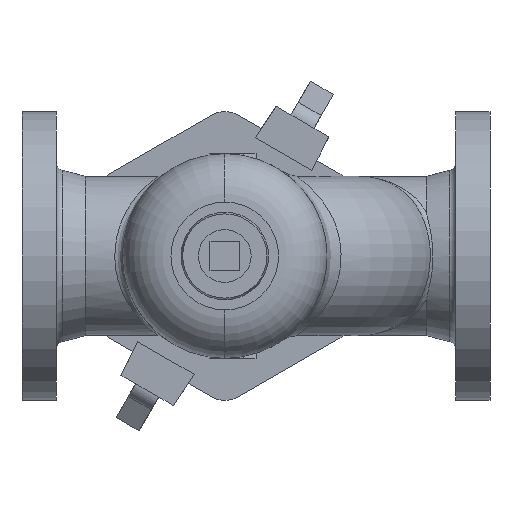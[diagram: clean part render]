
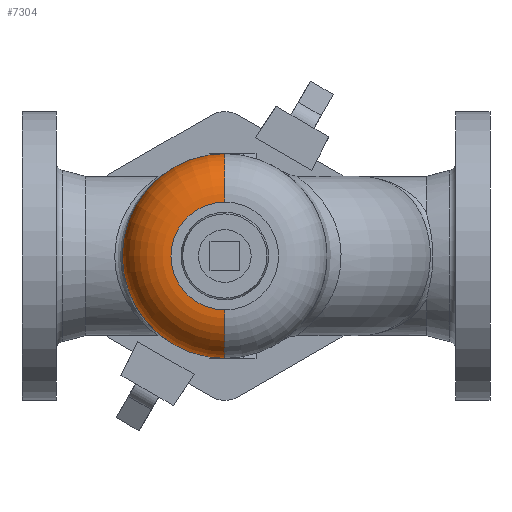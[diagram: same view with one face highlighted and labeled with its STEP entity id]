
A CAD part, front view. The second image highlights one B-rep face of the part: STEP entity #7304.
In plain terms, the highlighted toroidal (fillet/blend) face has major radius 34.5 mm and minor radius 31 mm.
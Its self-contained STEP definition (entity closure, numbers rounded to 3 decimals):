
#85 = DIRECTION ( 'NONE',  ( 0., 1., 0. ) ) ;
#591 = DIRECTION ( 'NONE',  ( 1., 0., 0. ) ) ;
#612 = AXIS2_PLACEMENT_3D ( 'NONE', #3937, #85, #8285 ) ;
#1080 = DIRECTION ( 'NONE',  ( -1., 0., 0. ) ) ;
#1155 = DIRECTION ( 'NONE',  ( 0., 0., 1. ) ) ;
#1327 = CARTESIAN_POINT ( 'NONE',  ( 0., -162.5, -34.5 ) ) ;
#1544 = CIRCLE ( 'NONE', #4985, 31. ) ;
#2038 = CIRCLE ( 'NONE', #3596, 65.5 ) ;
#2420 = ORIENTED_EDGE ( 'NONE', *, *, #4894, .F. ) ;
#2649 = CARTESIAN_POINT ( 'NONE',  ( 0., -162.5, 34.5 ) ) ;
#2754 = ORIENTED_EDGE ( 'NONE', *, *, #5901, .F. ) ;
#2778 = ORIENTED_EDGE ( 'NONE', *, *, #5664, .T. ) ;
#2932 = EDGE_LOOP ( 'NONE', ( #2420, #2778, #3770, #2754 ) ) ;
#3596 = AXIS2_PLACEMENT_3D ( 'NONE', #4191, #5702, #1155 ) ;
#3770 = ORIENTED_EDGE ( 'NONE', *, *, #6784, .T. ) ;
#3937 = CARTESIAN_POINT ( 'NONE',  ( 0., -193.5, 0. ) ) ;
#4063 = DIRECTION ( 'NONE',  ( 0., 0., 1. ) ) ;
#4191 = CARTESIAN_POINT ( 'NONE',  ( 0., -162.5, 0. ) ) ;
#4894 = EDGE_CURVE ( 'NONE', #6082, #9496, #1544, .T. ) ;
#4985 = AXIS2_PLACEMENT_3D ( 'NONE', #1327, #591, #5872 ) ;
#4994 = CIRCLE ( 'NONE', #612, 34.5 ) ;
#5001 = DIRECTION ( 'NONE',  ( 0., 0., 1. ) ) ;
#5606 = VERTEX_POINT ( 'NONE', #9678 ) ;
#5648 = VERTEX_POINT ( 'NONE', #6868 ) ;
#5664 = EDGE_CURVE ( 'NONE', #6082, #5648, #4994, .T. ) ;
#5702 = DIRECTION ( 'NONE',  ( 0., 1., 0. ) ) ;
#5790 = AXIS2_PLACEMENT_3D ( 'NONE', #2649, #1080, #4063 ) ;
#5823 = CARTESIAN_POINT ( 'NONE',  ( 0., -162.5, -65.5 ) ) ;
#5872 = DIRECTION ( 'NONE',  ( 0., 0., -1. ) ) ;
#5901 = EDGE_CURVE ( 'NONE', #9496, #5606, #2038, .T. ) ;
#6082 = VERTEX_POINT ( 'NONE', #8988 ) ;
#6252 = AXIS2_PLACEMENT_3D ( 'NONE', #7240, #7980, #5001 ) ;
#6784 = EDGE_CURVE ( 'NONE', #5648, #5606, #8758, .T. ) ;
#6868 = CARTESIAN_POINT ( 'NONE',  ( 0., -193.5, 34.5 ) ) ;
#7240 = CARTESIAN_POINT ( 'NONE',  ( 0., -162.5, 0. ) ) ;
#7304 = ADVANCED_FACE ( 'NONE', ( #7928 ), #8764, .T. ) ;
#7928 = FACE_OUTER_BOUND ( 'NONE', #2932, .T. ) ;
#7980 = DIRECTION ( 'NONE',  ( 0., 1., 0. ) ) ;
#8285 = DIRECTION ( 'NONE',  ( 0., 0., 1. ) ) ;
#8758 = CIRCLE ( 'NONE', #5790, 31. ) ;
#8764 = TOROIDAL_SURFACE ( 'NONE', #6252, 34.5, 31. ) ;
#8988 = CARTESIAN_POINT ( 'NONE',  ( 0., -193.5, -34.5 ) ) ;
#9496 = VERTEX_POINT ( 'NONE', #5823 ) ;
#9678 = CARTESIAN_POINT ( 'NONE',  ( 0., -162.5, 65.5 ) ) ;
